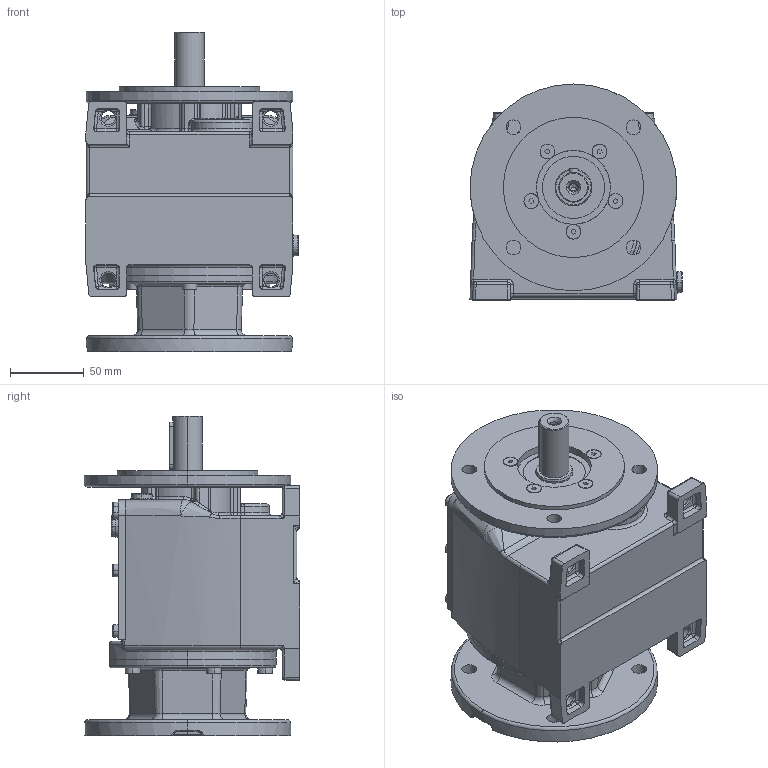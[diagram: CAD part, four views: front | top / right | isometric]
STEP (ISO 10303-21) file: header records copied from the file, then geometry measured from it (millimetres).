
FILE_DESCRIPTION (( 'STEP AP214' ), '1' );
FILE_NAME ('MTC23A-71-115+VP.STEP', '2006-05-03T10:52:59', ( '' ), ( '' ), 'SwSTEP 2.0', 'SolidWorks 2004146', '' );
FILE_SCHEMA (( 'AUTOMOTIVE_DESIGN' ));
Length unit declared in the file: millimetre
Products named in the file (6): pøíruba d55 MRT60a_pøíruba 95-115-140; Skrin MTC2_A_MTC23_71AP; D6912_Šroub DIN 6912 - M6x20; D7991_Šroub DIN 7991 - M5 x 16; Výst_pøíruba MTC_A_MTC2_A; MTC23A-71-115+VP
Assembly tree (14 placements, depth 2):
  MTC23A-71-115+VP
    D6912_Šroub DIN 6912 - M6x20  x6
    D7991_Šroub DIN 7991 - M5 x 16  x5
    pøíruba d55 MRT60a_pøíruba 95-115-140
    Výst_pøíruba MTC_A_MTC2_A
    Skrin MTC2_A_MTC23_71AP
Bounding box: 143.57 x 146 x 216.5 mm (x, y, z)
Volume: 2107060.2 mm3; surface area: 196149.4 mm2
Topology: 14 solids, 14 shells, 1561 faces, 3620 edges, 2107 vertices
Faces by surface type: plane 410, cylinder 373, torus 359, cone 239, bspline 154, sphere 26
Entity records: 126884 total; most frequent: CARTESIAN_POINT 93674, DIRECTION 6543, ORIENTED_EDGE 6164, EDGE_CURVE 3082, AXIS2_PLACEMENT_3D 2747, VERTEX_POINT 1853, CIRCLE 1584, EDGE_LOOP 1411
